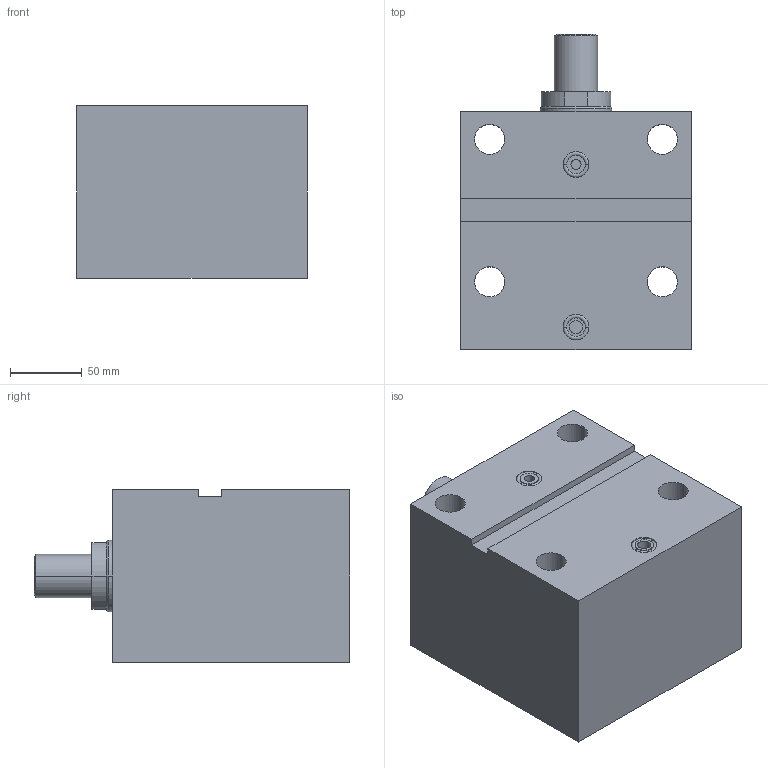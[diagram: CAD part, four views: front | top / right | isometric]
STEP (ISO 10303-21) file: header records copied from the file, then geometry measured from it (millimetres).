
FILE_DESCRIPTION (( 'STEP AP203' ), '1' );
FILE_NAME ('GERMA_Blockzylinder_603-080-080-A.STEP', '2016-01-25T09:44:12', ( '' ), ( '' ), 'SwSTEP 2.0', 'SolidWorks 2015', '' );
FILE_SCHEMA (( 'CONFIG_CONTROL_DESIGN' ));
Length unit declared in the file: millimetre
Products named in the file (3): GH-600-080_GH-603-080-080; Kolben 60x-080_Kolben DU.80-Hub80-AG; GERMA_Blockzylinder_603-080-080-A
Assembly tree (2 placements, depth 2):
  GERMA_Blockzylinder_603-080-080-A
    GH-600-080_GH-603-080-080
    Kolben 60x-080_Kolben DU.80-Hub80-AG
Bounding box: 160 x 219 x 120 mm (x, y, z)
Volume: 2796253.6 mm3; surface area: 244282.8 mm2
Topology: 2 solids, 2 shells, 81 faces, 178 edges, 109 vertices
Faces by surface type: cylinder 39, plane 26, cone 12, torus 4
Entity records: 2534 total; most frequent: DIRECTION 439, CARTESIAN_POINT 369, ORIENTED_EDGE 348, AXIS2_PLACEMENT_3D 179, EDGE_CURVE 174, VERTEX_POINT 109, EDGE_LOOP 101, CIRCLE 93
